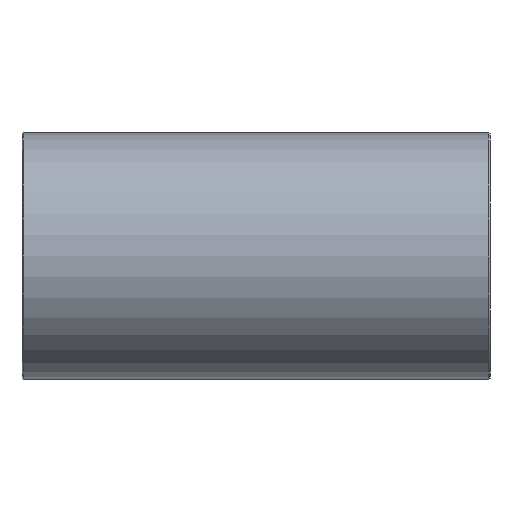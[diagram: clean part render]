
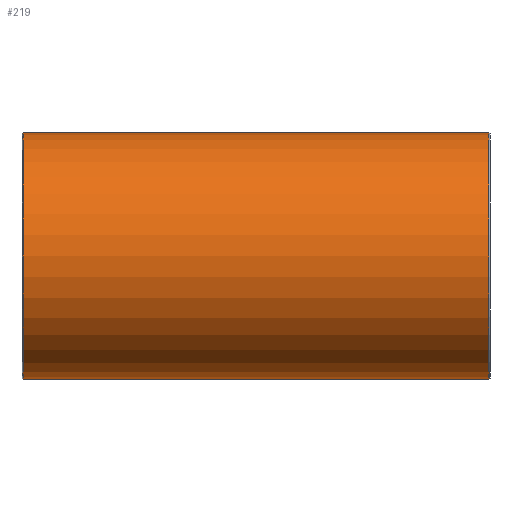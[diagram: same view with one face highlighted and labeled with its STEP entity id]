
A CAD part, front view. The second image highlights one B-rep face of the part: STEP entity #219.
In plain terms, the highlighted cylindrical face has radius 23.45 mm (diameter 46.9 mm), a full revolution.
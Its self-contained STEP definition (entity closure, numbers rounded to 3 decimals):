
#73=CARTESIAN_POINT('',(44.3,23.45,0.));
#74=VERTEX_POINT('',#73);
#75=CARTESIAN_POINT('',(44.3,0.0,0.0));
#76=DIRECTION('',(1.0,0.0,0.0));
#77=DIRECTION('',(0.0,-1.0,0.0));
#78=AXIS2_PLACEMENT_3D('',#75,#76,#77);
#79=CIRCLE('',#78,23.45);
#80=EDGE_CURVE('',#74,#74,#79,.T.);
#116=CARTESIAN_POINT('',(0.0,0.0,0.0));
#117=DIRECTION('',(1.0,0.0,0.0));
#118=DIRECTION('',(0.0,1.0,0.0));
#119=AXIS2_PLACEMENT_3D('',#116,#117,#118);
#120=CYLINDRICAL_SURFACE('',#119,23.45);
#121=CARTESIAN_POINT('',(-44.3,23.45,0.));
#122=VERTEX_POINT('',#121);
#123=CARTESIAN_POINT('',(-44.3,0.0,0.0));
#124=DIRECTION('',(-1.0,0.0,0.0));
#125=DIRECTION('',(0.0,-1.0,0.0));
#126=AXIS2_PLACEMENT_3D('',#123,#124,#125);
#127=CIRCLE('',#126,23.45);
#128=EDGE_CURVE('',#122,#122,#127,.T.);
#129=ORIENTED_EDGE('',*,*,#128,.F.);
#130=EDGE_LOOP('',(#129));
#131=FACE_OUTER_BOUND('',#130,.T.);
#132=CARTESIAN_POINT('',(0.,11.512,20.43));
#133=VERTEX_POINT('',#132);
#134=CARTESIAN_POINT('',(0.,11.512,20.43));
#135=CARTESIAN_POINT('',(0.,11.512,20.43));
#136=CARTESIAN_POINT('',(0.,11.512,20.43));
#137=CARTESIAN_POINT('',(0.,11.512,20.43));
#138=CARTESIAN_POINT('',(0.735,11.512,20.43));
#139=CARTESIAN_POINT('',(1.715,11.579,20.392));
#140=CARTESIAN_POINT('',(3.158,11.802,20.264));
#141=CARTESIAN_POINT('',(4.335,12.056,20.115));
#142=CARTESIAN_POINT('',(6.154,12.583,19.793));
#143=CARTESIAN_POINT('',(8.103,13.339,19.299));
#144=CARTESIAN_POINT('',(9.732,14.106,18.739));
#145=CARTESIAN_POINT('',(11.104,14.803,18.193));
#146=CARTESIAN_POINT('',(12.041,15.311,17.769));
#147=CARTESIAN_POINT('',(13.494,16.138,17.026));
#148=CARTESIAN_POINT('',(15.061,17.082,16.101));
#149=CARTESIAN_POINT('',(16.675,18.113,14.918));
#150=CARTESIAN_POINT('',(17.806,18.859,13.947));
#151=CARTESIAN_POINT('',(18.382,19.245,13.402));
#152=CARTESIAN_POINT('',(19.409,19.939,12.379));
#153=CARTESIAN_POINT('',(20.514,20.703,11.088));
#154=CARTESIAN_POINT('',(21.629,21.489,9.417));
#155=CARTESIAN_POINT('',(22.141,21.854,8.514));
#156=CARTESIAN_POINT('',(22.387,22.03,8.037));
#157=CARTESIAN_POINT('',(22.929,22.418,6.959));
#158=CARTESIAN_POINT('',(23.748,23.01,4.891));
#159=CARTESIAN_POINT('',(24.271,23.392,2.196));
#160=CARTESIAN_POINT('',(24.376,23.469,-0.005));
#161=CARTESIAN_POINT('',(24.297,23.411,-1.649));
#162=CARTESIAN_POINT('',(24.06,23.238,-3.284));
#163=CARTESIAN_POINT('',(23.545,22.863,-5.402));
#164=CARTESIAN_POINT('',(22.74,22.281,-7.436));
#165=CARTESIAN_POINT('',(21.855,21.65,-9.03));
#166=CARTESIAN_POINT('',(21.283,21.245,-9.936));
#167=CARTESIAN_POINT('',(20.377,20.609,-11.248));
#168=CARTESIAN_POINT('',(18.776,19.501,-13.119));
#169=CARTESIAN_POINT('',(16.865,18.232,-14.783));
#170=CARTESIAN_POINT('',(15.134,17.134,-16.026));
#171=CARTESIAN_POINT('',(13.322,16.027,-17.154));
#172=CARTESIAN_POINT('',(10.731,14.568,-18.414));
#173=CARTESIAN_POINT('',(7.5,13.042,-19.513));
#174=CARTESIAN_POINT('',(4.517,12.045,-20.125));
#175=CARTESIAN_POINT('',(1.964,11.592,-20.385));
#176=CARTESIAN_POINT('',(0.003,11.472,-20.452));
#177=CARTESIAN_POINT('',(-1.961,11.592,-20.385));
#178=CARTESIAN_POINT('',(-3.87,11.929,-20.191));
#179=CARTESIAN_POINT('',(-5.711,12.444,-19.88));
#180=CARTESIAN_POINT('',(-7.458,13.083,-19.467));
#181=CARTESIAN_POINT('',(-9.116,13.806,-18.963));
#182=CARTESIAN_POINT('',(-11.232,14.85,-18.172));
#183=CARTESIAN_POINT('',(-13.7,16.24,-16.969));
#184=CARTESIAN_POINT('',(-16.369,17.903,-15.215));
#185=CARTESIAN_POINT('',(-18.378,19.236,-13.466));
#186=CARTESIAN_POINT('',(-19.814,20.219,-11.906));
#187=CARTESIAN_POINT('',(-20.908,20.98,-10.521));
#188=CARTESIAN_POINT('',(-21.983,21.74,-8.868));
#189=CARTESIAN_POINT('',(-22.956,22.438,-6.922));
#190=CARTESIAN_POINT('',(-23.632,22.927,-5.045));
#191=CARTESIAN_POINT('',(-24.061,23.239,-3.278));
#192=CARTESIAN_POINT('',(-24.298,23.412,-1.642));
#193=CARTESIAN_POINT('',(-24.376,23.469,0.001));
#194=CARTESIAN_POINT('',(-24.27,23.392,2.203));
#195=CARTESIAN_POINT('',(-23.851,23.085,4.357));
#196=CARTESIAN_POINT('',(-23.141,22.571,6.425));
#197=CARTESIAN_POINT('',(-22.481,22.097,7.9));
#198=CARTESIAN_POINT('',(-21.179,21.169,10.253));
#199=CARTESIAN_POINT('',(-19.584,20.052,12.256));
#200=CARTESIAN_POINT('',(-17.867,18.899,13.894));
#201=CARTESIAN_POINT('',(-16.663,18.104,14.928));
#202=CARTESIAN_POINT('',(-14.399,16.661,16.583));
#203=CARTESIAN_POINT('',(-11.869,15.176,17.914));
#204=CARTESIAN_POINT('',(-9.517,14.002,18.815));
#205=CARTESIAN_POINT('',(-7.88,13.253,19.355));
#206=CARTESIAN_POINT('',(-5.733,12.419,19.9));
#207=CARTESIAN_POINT('',(-3.405,11.815,20.257));
#208=CARTESIAN_POINT('',(-1.472,11.557,20.405));
#209=CARTESIAN_POINT('',(-0.49,11.512,20.43));
#210=CARTESIAN_POINT('',(0.,11.512,20.43));
#211=B_SPLINE_CURVE_WITH_KNOTS('',3,(#134,#135,#136,#137,#138,#139,#140,#141,#142,#143,#144,#145,#146,#147,#148,#149,#150,#151,#152,#153,#154,#155,#156,#157,#158,#159,#160,#161,#162,#163,#164,#165,#166,#167,#168,#169,#170,#171,#172,#173,#174,#175,#176,#177,#178,#179,#180,#181,#182,#183,#184,#185,#186,#187,#188,#189,#190,#191,#192,#193,#194,#195,#196,#197,#198,#199,#200,#201,#202,#203,#204,#205,#206,#207,#208,#209,#210),.UNSPECIFIED.,.T.,.U.,(4,3,1,1,1,1,1,1,1,1,1,1,1,1,1,1,1,1,1,1,1,1,1,1,1,1,1,1,1,1,1,1,1,1,1,1,1,1,1,1,1,1,1,1,1,1,1,1,1,1,1,1,1,1,1,1,1,1,1,1,1,1,1,1,1,1,1,1,1,1,1,1,4),(-13.021,-13.021,-12.847,-12.789,-12.673,-12.556,-12.324,-12.149,-12.091,-11.917,-11.859,-11.626,-11.394,-11.277,-11.19,-11.161,-10.851,-10.696,-10.58,-10.551,-10.541,-10.231,-9.921,-9.766,-9.611,-9.456,-9.301,-8.991,-8.836,-8.778,-8.681,-8.371,-8.061,-7.945,-7.751,-7.441,-7.131,-6.821,-6.666,-6.511,-6.356,-6.201,-6.046,-5.891,-5.736,-5.581,-5.271,-4.96,-4.65,-4.495,-4.34,-4.134,-3.927,-3.72,-3.565,-3.41,-3.255,-3.1,-2.79,-2.635,-2.48,-2.325,-1.86,-1.744,-1.628,-1.395,-0.93,-0.814,-0.698,-0.465,-0.233,-0.116,0.),.UNSPECIFIED.);
#212=EDGE_CURVE('',#133,#133,#211,.T.);
#213=ORIENTED_EDGE('',*,*,#212,.F.);
#214=EDGE_LOOP('',(#213));
#215=FACE_BOUND('',#214,.T.);
#216=ORIENTED_EDGE('',*,*,#80,.F.);
#217=EDGE_LOOP('',(#216));
#218=FACE_BOUND('',#217,.T.);
#219=ADVANCED_FACE('',(#131,#215,#218),#120,.T.);
